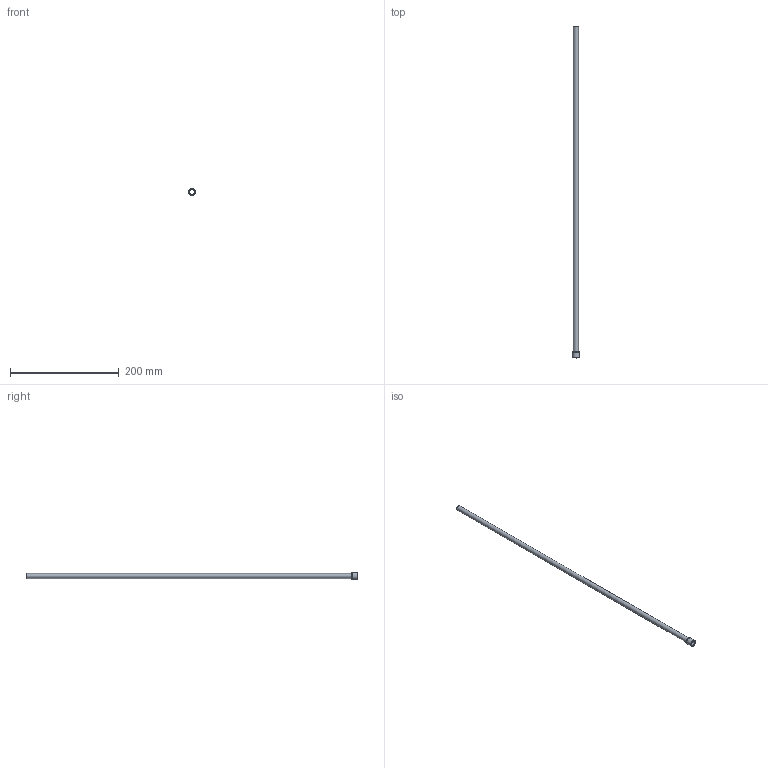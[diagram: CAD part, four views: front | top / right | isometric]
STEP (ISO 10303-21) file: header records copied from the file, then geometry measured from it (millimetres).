
FILE_DESCRIPTION(/* description */ (''),/* implementation_level */ '2;1');
FILE_NAME(/* name */ 'C:/Users/drich/Desktop/JHF375T-24 v1.step',/* time_stamp */ '2020-01-02T20:03:33-06:00',/* author */ (''),/* organization */ (''),/* preprocessor_version */ 'ST-DEVELOPER v18',/* originating_system */ 'Autodesk Translation Framework v8.12.0.6',/* authorisation */ '');
FILE_SCHEMA (('AUTOMOTIVE_DESIGN { 1 0 10303 214 3 1 1 }'));
Length unit declared in the file: inch
Products named in the file (1): JHF375T-24
Bounding box: 12.75 x 609.6 x 12.75 mm (x, y, z)
Volume: 6171.5 mm3; surface area: 34550.6 mm2
Topology: 1 solids, 1 shells, 10 faces, 24 edges, 18 vertices
Faces by surface type: cylinder 4, plane 4, cone 1, torus 1
Full cylindrical faces by diameter (mm): 8.636 x1, 9.271 x1, 12.598 x1, 12.751 x1
Entity records: 354 total; most frequent: DIRECTION 65, CARTESIAN_POINT 53, ORIENTED_EDGE 48, AXIS2_PLACEMENT_3D 30, EDGE_CURVE 24, CIRCLE 19, VERTEX_POINT 18, EDGE_LOOP 14
